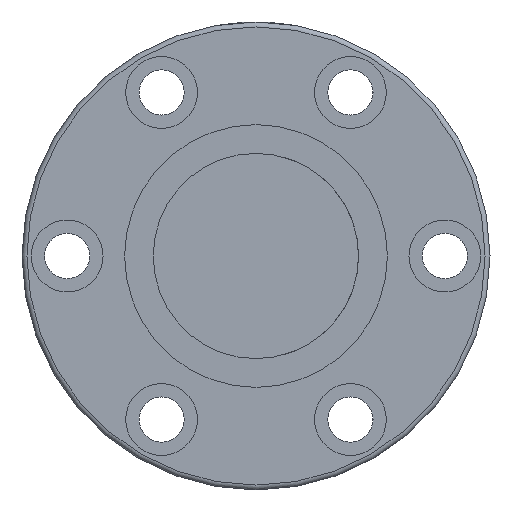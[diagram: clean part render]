
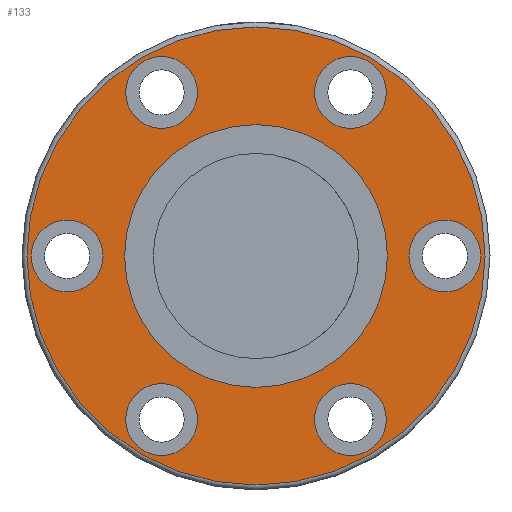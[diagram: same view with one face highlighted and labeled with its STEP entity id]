
A CAD part, front view. The second image highlights one B-rep face of the part: STEP entity #133.
In plain terms, the highlighted planar face has unit normal (0, -1, 0).
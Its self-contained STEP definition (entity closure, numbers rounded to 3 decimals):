
#133=ADVANCED_FACE('',(#195,#196,#197,#198,#199,#200,#201,#202),#177,.F.);
#177=PLANE('',#641);
#195=FACE_BOUND('',#290,.T.);
#196=FACE_BOUND('',#291,.T.);
#197=FACE_BOUND('',#292,.T.);
#198=FACE_BOUND('',#293,.T.);
#199=FACE_BOUND('',#294,.T.);
#200=FACE_BOUND('',#295,.T.);
#201=FACE_BOUND('',#296,.T.);
#202=FACE_BOUND('',#297,.T.);
#290=EDGE_LOOP('',(#388));
#291=EDGE_LOOP('',(#389));
#292=EDGE_LOOP('',(#390));
#293=EDGE_LOOP('',(#391));
#294=EDGE_LOOP('',(#392));
#295=EDGE_LOOP('',(#393));
#296=EDGE_LOOP('',(#394));
#297=EDGE_LOOP('',(#395));
#388=ORIENTED_EDGE('',*,*,#535,.T.);
#389=ORIENTED_EDGE('',*,*,#536,.T.);
#390=ORIENTED_EDGE('',*,*,#537,.T.);
#391=ORIENTED_EDGE('',*,*,#538,.T.);
#392=ORIENTED_EDGE('',*,*,#539,.T.);
#393=ORIENTED_EDGE('',*,*,#540,.T.);
#394=ORIENTED_EDGE('',*,*,#541,.T.);
#395=ORIENTED_EDGE('',*,*,#542,.F.);
#486=VERTEX_POINT('',#913);
#487=VERTEX_POINT('',#915);
#488=VERTEX_POINT('',#917);
#489=VERTEX_POINT('',#919);
#490=VERTEX_POINT('',#921);
#491=VERTEX_POINT('',#923);
#492=VERTEX_POINT('',#925);
#493=VERTEX_POINT('',#927);
#535=EDGE_CURVE('',#486,#486,#584,.T.);
#536=EDGE_CURVE('',#487,#487,#585,.T.);
#537=EDGE_CURVE('',#488,#488,#586,.T.);
#538=EDGE_CURVE('',#489,#489,#587,.T.);
#539=EDGE_CURVE('',#490,#490,#588,.T.);
#540=EDGE_CURVE('',#491,#491,#589,.T.);
#541=EDGE_CURVE('',#492,#492,#590,.T.);
#542=EDGE_CURVE('',#493,#493,#591,.T.);
#584=CIRCLE('',#633,8.75);
#585=CIRCLE('',#634,8.75);
#586=CIRCLE('',#635,8.75);
#587=CIRCLE('',#636,8.75);
#588=CIRCLE('',#637,8.75);
#589=CIRCLE('',#638,8.75);
#590=CIRCLE('',#639,55.8);
#591=CIRCLE('',#640,32.);
#633=AXIS2_PLACEMENT_3D('',#912,#727,#728);
#634=AXIS2_PLACEMENT_3D('',#914,#729,#730);
#635=AXIS2_PLACEMENT_3D('',#916,#731,#732);
#636=AXIS2_PLACEMENT_3D('',#918,#733,#734);
#637=AXIS2_PLACEMENT_3D('',#920,#735,#736);
#638=AXIS2_PLACEMENT_3D('',#922,#737,#738);
#639=AXIS2_PLACEMENT_3D('',#924,#739,#740);
#640=AXIS2_PLACEMENT_3D('',#926,#741,#742);
#641=AXIS2_PLACEMENT_3D('',#928,#743,#744);
#727=DIRECTION('',(0.,1.,0.));
#728=DIRECTION('',(0.,0.,1.));
#729=DIRECTION('',(0.,1.,0.));
#730=DIRECTION('',(0.,0.,1.));
#731=DIRECTION('',(0.,1.,0.));
#732=DIRECTION('',(0.,0.,1.));
#733=DIRECTION('',(0.,1.,0.));
#734=DIRECTION('',(0.,0.,1.));
#735=DIRECTION('',(0.,1.,0.));
#736=DIRECTION('',(0.,0.,1.));
#737=DIRECTION('',(0.,1.,0.));
#738=DIRECTION('',(0.,0.,1.));
#739=DIRECTION('',(0.,-1.,0.));
#740=DIRECTION('',(0.,0.,1.));
#741=DIRECTION('',(0.,-1.,0.));
#742=DIRECTION('',(1.,0.,0.));
#743=DIRECTION('',(0.,1.,0.));
#744=DIRECTION('',(0.,0.,-1.));
#912=CARTESIAN_POINT('',(46.039,-43.961,0.));
#913=CARTESIAN_POINT('',(46.039,-43.961,8.75));
#914=CARTESIAN_POINT('',(-45.961,-43.961,0.));
#915=CARTESIAN_POINT('',(-45.961,-43.961,8.75));
#916=CARTESIAN_POINT('',(23.039,-43.961,-39.837));
#917=CARTESIAN_POINT('',(23.039,-43.961,-31.087));
#918=CARTESIAN_POINT('',(-22.961,-43.961,-39.837));
#919=CARTESIAN_POINT('',(-22.961,-43.961,-31.087));
#920=CARTESIAN_POINT('',(23.039,-43.961,39.837));
#921=CARTESIAN_POINT('',(23.039,-43.961,48.587));
#922=CARTESIAN_POINT('',(-22.961,-43.961,39.837));
#923=CARTESIAN_POINT('',(-22.961,-43.961,48.587));
#924=CARTESIAN_POINT('',(0.039,-43.961,0.));
#925=CARTESIAN_POINT('',(0.039,-43.961,55.8));
#926=CARTESIAN_POINT('',(0.039,-43.961,0.));
#927=CARTESIAN_POINT('',(32.039,-43.961,0.));
#928=CARTESIAN_POINT('',(0.039,-43.961,0.));
